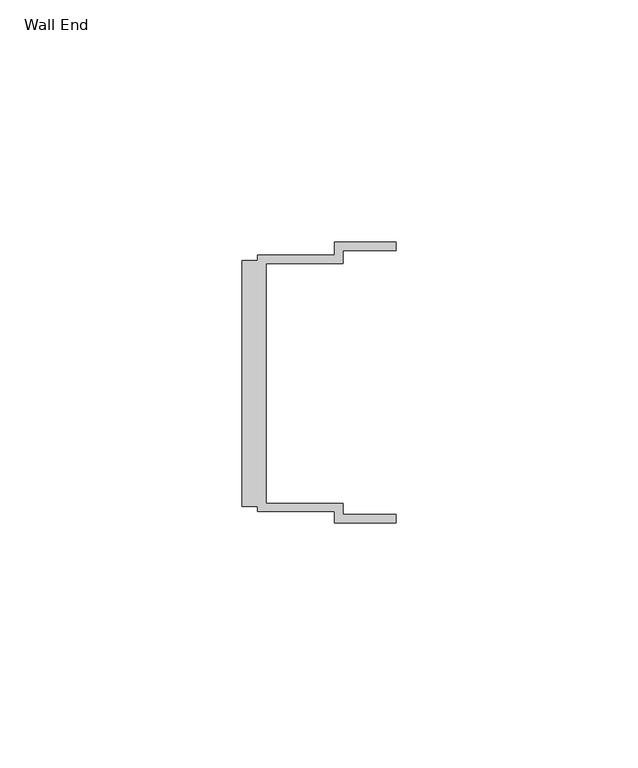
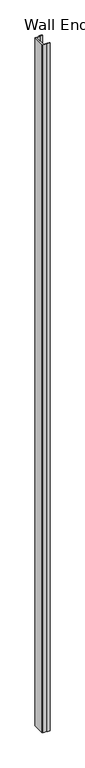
"""IFC4 building model written with IfcOpenShell, lengths in millimetres: proxy geometry, Connection-Wall_End-Teknion-Altos-FKE : Wall End."""

from ifc_helpers import new_model, si_unit, origin, origin_with_axes, place, context, project, spatial, polyline, outline, extrude, source, transform, mapped, element, save


def wall_end_62e6ae35(model_context):
    return source(origin(), model_context, "Body", "SweptSolid", [
        extrude(outline(polyline([(4.953, -24.9708639), (20.828, -24.9708639), (20.828, -27.2434844), (31.75, -27.2434844), (31.75, -29.0214844), (19.05, -29.0214844), (19.05, -26.6444643), (3.175, -26.6444643), (3.175, -25.618464), (0.0, -25.618464), (0.0, 25.181536), (3.175, 25.181536), (3.175, 26.311936), (19.05, 26.311936), (19.05, 28.9785157), (31.75, 28.9785157), (31.75, 27.2005157), (20.828, 27.2005157), (20.828, 24.533936), (4.953, 24.533936), (4.953, -24.9708639)])), origin_with_axes(), (0.0, 0.0, 1.0), 3048.0),
    ])


if __name__ == "__main__":
    model = new_model("IFC4")
    model_context = context("Model", 3, world=origin())
    ifc_project = project(units=[si_unit("LENGTHUNIT", "METRE", prefix="MILLI")], contexts=[model_context])
    site = spatial("IfcSite", under=ifc_project)
    building = spatial("IfcBuilding", under=site)
    placement = place(None, origin())
    wall_end_shape = wall_end_62e6ae35(model_context)
    element("IfcBuildingElementProxy", 1, Name="Connection-Wall_End-Teknion-Altos-FKE : Wall End", ObjectType="Connection-Wall_End-Teknion-Altos-FKE : Wall End", at=placement, inside=building, context=model_context, shape_type="MappedRepresentation", body=[
        mapped(wall_end_shape, transform((0.0, 0.0, 0.0), x_axis=(1.0, 0.0, 0.0), y_axis=(0.0, 1.0, 0.0), z_axis=(0.0, 0.0, 1.0))),
    ])
    save(model, "model.ifc")
